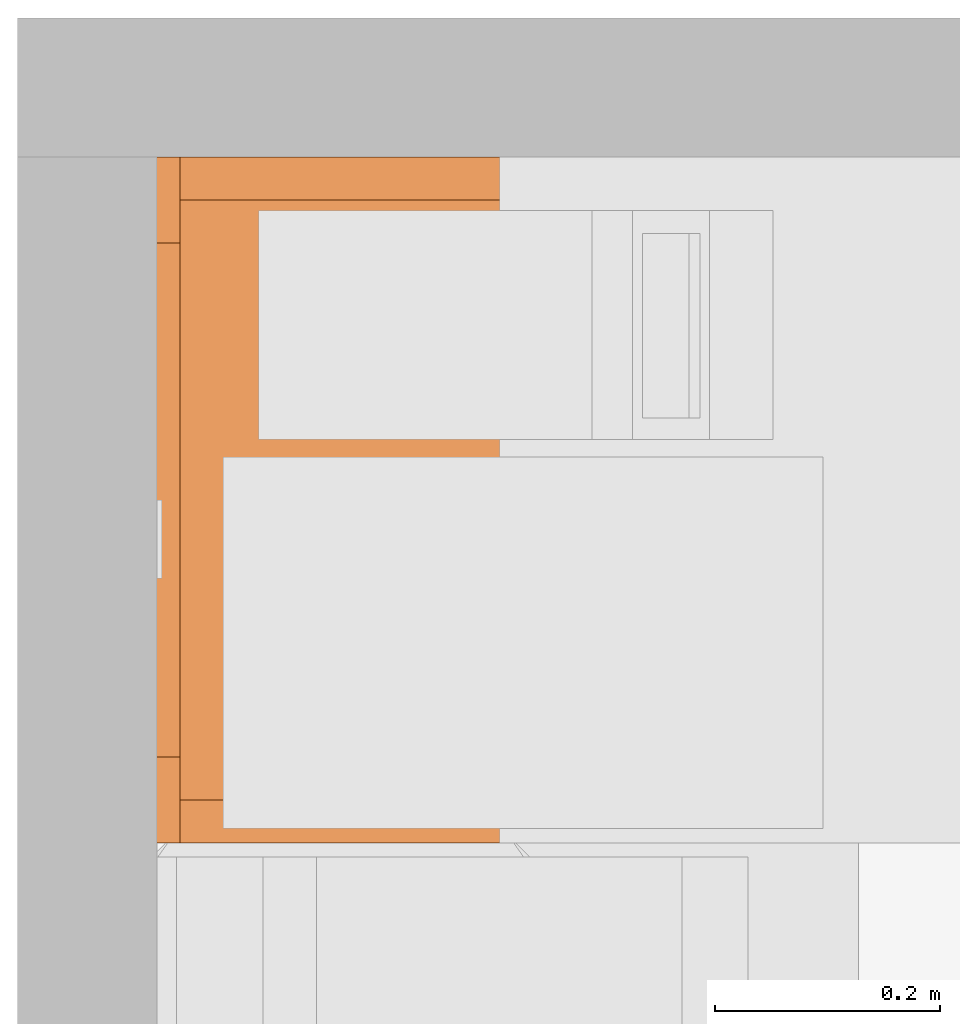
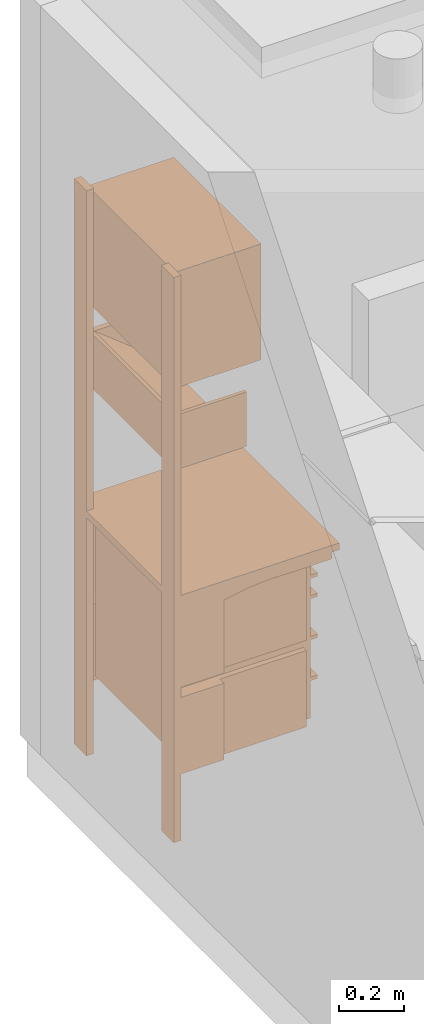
# One storey, part 8 of 11: 1 proxy.
"""IFC2X3 building model written with IfcOpenShell, lengths in feet."""

from ifc_helpers import new_model, entity, si_unit, converted_unit, derived_unit, direction, frame, origin, place, context, subcontext, project, spatial, faceted_brep, source, transform, mapped, type_object, type_shapes, element, save


model = new_model("IFC2X3")

# Units and contexts
model_context = context("Model", 3, precision=0.0001, world=origin(), true_north=direction((6.12303176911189e-17, 1.0)))
body_context = subcontext(model_context, "Body", "Model", "MODEL_VIEW")
ifc_project = project(units=[converted_unit("LENGTHUNIT", "FOOT", entity("IfcRatioMeasure", 0.3048), si_unit("LENGTHUNIT", "METRE"), dimensions=[1, 0, 0, 0, 0, 0, 0]), converted_unit("AREAUNIT", "SQUARE FOOT", entity("IfcRatioMeasure", 0.09290304), si_unit("AREAUNIT", "SQUARE_METRE"), dimensions=[2, 0, 0, 0, 0, 0, 0]), converted_unit("VOLUMEUNIT", "CUBIC FOOT", entity("IfcRatioMeasure", 0.028316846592), si_unit("VOLUMEUNIT", "CUBIC_METRE"), dimensions=[3, 0, 0, 0, 0, 0, 0]), converted_unit("PLANEANGLEUNIT", "DEGREE", entity("IfcRatioMeasure", 0.0174532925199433), si_unit("PLANEANGLEUNIT", "RADIAN"), dimensions=[0, 0, 0, 0, 0, 0, 0]), si_unit("MASSUNIT", "GRAM", prefix="KILO"), derived_unit("MASSDENSITYUNIT", [(si_unit("MASSUNIT", "GRAM", prefix="KILO"), 1), (si_unit("LENGTHUNIT", "METRE"), -3)]), si_unit("TIMEUNIT", "SECOND"), si_unit("FREQUENCYUNIT", "HERTZ"), si_unit("THERMODYNAMICTEMPERATUREUNIT", "DEGREE_CELSIUS"), derived_unit("THERMALTRANSMITTANCEUNIT", [(si_unit("MASSUNIT", "GRAM", prefix="KILO"), 1), (si_unit("THERMODYNAMICTEMPERATUREUNIT", "KELVIN"), -1), (si_unit("TIMEUNIT", "SECOND"), -3)]), derived_unit("VOLUMETRICFLOWRATEUNIT", [(si_unit("LENGTHUNIT", "METRE"), 3), (si_unit("TIMEUNIT", "SECOND"), -1)]), si_unit("ELECTRICCURRENTUNIT", "AMPERE"), si_unit("ELECTRICVOLTAGEUNIT", "VOLT"), si_unit("POWERUNIT", "WATT"), si_unit("FORCEUNIT", "NEWTON"), si_unit("ILLUMINANCEUNIT", "LUX"), si_unit("LUMINOUSFLUXUNIT", "LUMEN"), si_unit("LUMINOUSINTENSITYUNIT", "CANDELA"), derived_unit("USERDEFINED", [(si_unit("MASSUNIT", "GRAM", prefix="KILO"), -1), (si_unit("LENGTHUNIT", "METRE"), -2), (si_unit("TIMEUNIT", "SECOND"), 3), (si_unit("LUMINOUSFLUXUNIT", "LUMEN"), 1)]), derived_unit("LINEARVELOCITYUNIT", [(si_unit("LENGTHUNIT", "METRE"), 1), (si_unit("TIMEUNIT", "SECOND"), -1)]), si_unit("PRESSUREUNIT", "PASCAL"), derived_unit("USERDEFINED", [(si_unit("LENGTHUNIT", "METRE"), -2), (si_unit("MASSUNIT", "GRAM", prefix="KILO"), 1), (si_unit("TIMEUNIT", "SECOND"), -2)])], contexts=[model_context])

# Site, building, storey, space
site_placement = place(None, origin())
site = spatial("IfcSite", under=ifc_project, at=site_placement, Name="Default", CompositionType="ELEMENT")
building_placement = place(site_placement, origin())
building = spatial("IfcBuilding", under=site, at=building_placement, Name="EYE CLINIC:  OPTHALMOLOGY AND OPTOMETRY SERVICES (Ch. 233)", CompositionType="ELEMENT")
storey_placement = place(building_placement, origin())
storey = spatial("IfcBuildingStorey", under=building, at=storey_placement, Name="DATUM", CompositionType="ELEMENT", Elevation=0.0)
space_placement = place(storey_placement, origin())
space = spatial("IfcSpace", under=storey, at=space_placement, Name="(OPVF2)", CompositionType="ELEMENT", InteriorOrExteriorSpace="INTERNAL")

# Proxy
building_element_proxy_type = type_object("IfcBuildingElementProxyType", Name="E0204 - Worksurface, with Overhd Cab & Drwrs, Wall Mtd, 24 W", PredefinedType="NOTDEFINED")
shared_shape = source(origin(), body_context, "Body", "Brep", [
    faceted_brep([(0.125000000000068, 0.916666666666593, 5.12161490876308), (0.125000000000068, 0.916666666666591, 4.45494824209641), (0.125000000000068, 0.0833333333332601, 4.45494824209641), (0.125000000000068, 0.0833333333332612, 5.12161490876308), (1.87500000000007, 0.916666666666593, 5.12161490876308), (1.87500000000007, 0.0833333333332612, 5.12161490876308), (1.87500000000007, 0.0833333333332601, 4.45494824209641), (1.87500000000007, 0.916666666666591, 4.45494824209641), (1.8333333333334, 0.916666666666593, 5.12161490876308), (1.8333333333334, 0.124999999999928, 5.12161490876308), (0.187500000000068, 0.12499999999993, 5.12161490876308), (0.187500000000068, 0.916666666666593, 5.12161490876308), (0.187500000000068, 0.916666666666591, 4.49661490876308), (1.8333333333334, 0.916666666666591, 4.49661490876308)], [[[0, 1, 2, 3]], [[4, 5, 6, 7]], [[0, 3, 5, 4, 8, 9, 10, 11]], [[3, 2, 6, 5]], [[2, 1, 7, 6]], [[1, 0, 11, 12, 13, 8, 4, 7]], [[10, 12, 11]], [[13, 9, 8]], [[12, 10, 9, 13]]]),
    faceted_brep([(2.0, 1.91666666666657, 2.99921907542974), (2.0, 0.0, 2.99921907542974), (2.0, 0.0, 2.91588574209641), (2.0, 1.91666666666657, 2.9158857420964), (0.0, 1.91666666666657, 2.99921907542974), (0.0, 1.91666666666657, 2.9158857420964), (0.0, 0.0, 2.91588574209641), (0.0, 0.0, 2.99921907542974)], [[[0, 1, 2, 3]], [[4, 5, 6, 7]], [[1, 0, 4, 7]], [[2, 1, 7, 6]], [[3, 2, 6, 5]], [[0, 3, 5, 4]]]),
    faceted_brep([(0.0, 0.58333333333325, 1.74999999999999), (0.0, 0.583333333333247, 0.812499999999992), (0.0, 0.0833333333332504, 0.812499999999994), (0.0, 0.083333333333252, 1.74999999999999), (0.0833333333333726, 0.58333333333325, 1.74999999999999), (0.0833333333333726, 0.083333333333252, 1.74999999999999), (0.0833333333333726, 0.0833333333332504, 0.812499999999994), (0.0833333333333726, 0.583333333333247, 0.812499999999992)], [[[0, 1, 2, 3]], [[4, 5, 6, 7]], [[0, 3, 5, 4]], [[3, 2, 6, 5]], [[2, 1, 7, 6]], [[1, 0, 4, 7]]]),
    faceted_brep([(0.0, 1.83333333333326, 2.83255240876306), (0.0, 1.38311796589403, 2.83255240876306), (0.0, 1.11489062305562, 2.83825911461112), (0.0, 0.847418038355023, 2.81735719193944), (0.0, 0.583333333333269, 2.77005240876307), (0.0, 0.58333333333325, 1.87421907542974), (0.0, 0.0833333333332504, 1.87421907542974), (0.0, 0.0833333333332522, 2.9158857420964), (0.0, 1.83333333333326, 2.9158857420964), (0.0833333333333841, 0.0833333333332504, 1.87421907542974), (0.0833333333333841, 0.58333333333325, 1.87421907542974), (0.0833333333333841, 0.583333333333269, 2.77005240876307), (0.0833333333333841, 0.847418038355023, 2.81735719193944), (0.0833333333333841, 1.11489062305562, 2.83825911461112), (0.0833333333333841, 1.38311796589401, 2.83255240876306), (0.0833333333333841, 1.83333333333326, 2.83255240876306), (0.0833333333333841, 1.83333333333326, 2.9158857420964), (0.0833333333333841, 0.0833333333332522, 2.9158857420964)], [[[0, 1, 2, 3, 4, 5, 6, 7, 8]], [[9, 10, 11, 12, 13, 14, 15, 16, 17]], [[0, 8, 16, 15]], [[8, 7, 17, 16]], [[7, 6, 9, 17]], [[6, 5, 10, 9]], [[5, 4, 11, 10]], [[13, 2, 1, 14]], [[13, 12, 3, 2]], [[11, 4, 3, 12]], [[1, 0, 15, 14]]]),
    faceted_brep([(0.145833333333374, 1.74999999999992, 1.35416666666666), (0.145833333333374, 1.74999999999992, 1.31249999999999), (0.145833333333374, 1.66666666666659, 1.31249999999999), (0.145833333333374, 1.66666666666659, 1.35416666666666), (1.85416666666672, 1.74999999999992, 1.35416666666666), (1.85416666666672, 1.66666666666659, 1.35416666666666), (1.85416666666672, 1.66666666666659, 1.31249999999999), (1.85416666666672, 1.74999999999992, 1.31249999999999)], [[[0, 1, 2, 3]], [[4, 5, 6, 7]], [[0, 3, 5, 4]], [[3, 2, 6, 5]], [[2, 1, 7, 6]], [[1, 0, 4, 7]]]),
    faceted_brep([(0.145833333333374, 1.74999999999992, 1.85416666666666), (0.145833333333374, 1.74999999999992, 1.81249999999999), (0.145833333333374, 1.66666666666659, 1.81249999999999), (0.145833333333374, 1.66666666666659, 1.85416666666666), (1.85416666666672, 1.74999999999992, 1.85416666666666), (1.85416666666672, 1.66666666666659, 1.85416666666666), (1.85416666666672, 1.66666666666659, 1.81249999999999), (1.85416666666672, 1.74999999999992, 1.81249999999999)], [[[0, 1, 2, 3]], [[4, 5, 6, 7]], [[0, 3, 5, 4]], [[3, 2, 6, 5]], [[2, 1, 7, 6]], [[1, 0, 4, 7]]]),
    faceted_brep([(0.145833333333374, 1.74999999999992, 2.35416666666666), (0.145833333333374, 1.74999999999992, 2.31249999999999), (0.145833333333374, 1.66666666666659, 2.31249999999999), (0.145833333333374, 1.66666666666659, 2.35416666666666), (1.85416666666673, 1.74999999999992, 2.35416666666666), (1.85416666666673, 1.66666666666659, 2.35416666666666), (1.85416666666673, 1.66666666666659, 2.31249999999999), (1.85416666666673, 1.74999999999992, 2.31249999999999)], [[[0, 1, 2, 3]], [[4, 5, 6, 7]], [[0, 3, 5, 4]], [[3, 2, 6, 5]], [[2, 1, 7, 6]], [[1, 0, 4, 7]]]),
    faceted_brep([(0.145833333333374, 1.74999999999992, 2.60416666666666), (0.145833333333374, 1.74999999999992, 2.56249999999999), (0.145833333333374, 1.66666666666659, 2.56249999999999), (0.145833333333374, 1.66666666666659, 2.60416666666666), (1.85416666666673, 1.74999999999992, 2.60416666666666), (1.85416666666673, 1.66666666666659, 2.60416666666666), (1.85416666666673, 1.66666666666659, 2.56249999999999), (1.85416666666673, 1.74999999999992, 2.56249999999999)], [[[0, 1, 2, 3]], [[4, 5, 6, 7]], [[0, 3, 5, 4]], [[3, 2, 6, 5]], [[2, 1, 7, 6]], [[1, 0, 4, 7]]]),
    faceted_brep([(0.145833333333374, 1.74999999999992, 2.85416666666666), (0.145833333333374, 1.74999999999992, 2.81249999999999), (0.145833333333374, 1.66666666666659, 2.81249999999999), (0.145833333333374, 1.66666666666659, 2.85416666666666), (1.85416666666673, 1.74999999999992, 2.85416666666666), (1.85416666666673, 1.66666666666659, 2.85416666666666), (1.85416666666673, 1.66666666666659, 2.81249999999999), (1.85416666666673, 1.74999999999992, 2.81249999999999)], [[[0, 1, 2, 3]], [[4, 5, 6, 7]], [[0, 3, 5, 4]], [[3, 2, 6, 5]], [[2, 1, 7, 6]], [[1, 0, 4, 7]]]),
    faceted_brep([(0.145833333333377, 0.16666666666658, 2.85416666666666), (1.85416666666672, 0.166666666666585, 2.85416666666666), (1.85416666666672, 0.196309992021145, 2.85416666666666), (1.85416666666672, 1.66666666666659, 2.85416666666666), (0.145833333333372, 1.66666666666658, 2.85416666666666), (0.145833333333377, 0.166666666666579, 0.854166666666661), (0.145833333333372, 1.66666666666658, 0.854166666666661), (1.85416666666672, 1.66666666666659, 0.854166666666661), (1.85416666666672, 0.196309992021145, 0.854166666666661), (1.85416666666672, 0.166666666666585, 0.854166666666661)], [[[0, 1, 2, 3, 4]], [[5, 6, 7, 8, 9]], [[0, 4, 6, 5]], [[4, 3, 7, 6]], [[3, 2, 8, 7]], [[2, 1, 9, 8]], [[1, 0, 5, 9]]]),
    faceted_brep([(0.0833333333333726, 1.58333333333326, 1.87421907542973), (0.0833333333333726, 0.0833333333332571, 1.87421907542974), (0.0833333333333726, 0.0833333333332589, 2.87421907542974), (0.0833333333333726, 1.58333333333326, 2.87421907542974), (0.145833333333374, 1.58333333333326, 1.87421907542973), (0.145833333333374, 1.58333333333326, 2.87421907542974), (0.145833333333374, 0.0833333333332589, 2.87421907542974), (0.145833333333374, 0.0833333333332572, 1.87421907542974)], [[[0, 1, 2, 3]], [[4, 5, 6, 7]], [[0, 3, 5, 4]], [[3, 2, 6, 5]], [[2, 1, 7, 6]], [[1, 0, 4, 7]]]),
    faceted_brep([(0.0833333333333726, 1.58333333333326, 0.812499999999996), (0.0833333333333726, 0.0833333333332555, 0.812500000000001), (0.0833333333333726, 0.0833333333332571, 1.74999999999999), (0.0833333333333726, 1.58333333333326, 1.74999999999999), (0.145833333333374, 1.58333333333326, 0.812499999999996), (0.145833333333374, 1.58333333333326, 1.74999999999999), (0.145833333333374, 0.0833333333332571, 1.74999999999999), (0.145833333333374, 0.0833333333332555, 0.812500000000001)], [[[0, 1, 2, 3]], [[4, 5, 6, 7]], [[0, 3, 5, 4]], [[3, 2, 6, 5]], [[2, 1, 7, 6]], [[1, 0, 4, 7]]]),
    faceted_brep([(1.85416666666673, 1.58333333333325, 1.87421907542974), (1.85416666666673, 0.0833333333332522, 1.87421907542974), (1.85416666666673, 0.083333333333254, 2.87421907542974), (1.85416666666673, 1.58333333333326, 2.87421907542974), (1.91666666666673, 1.58333333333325, 1.87421907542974), (1.91666666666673, 1.58333333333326, 2.87421907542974), (1.91666666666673, 0.083333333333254, 2.87421907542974), (1.91666666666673, 0.0833333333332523, 1.87421907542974)], [[[0, 1, 2, 3]], [[4, 5, 6, 7]], [[0, 3, 5, 4]], [[3, 2, 6, 5]], [[2, 1, 7, 6]], [[1, 0, 4, 7]]]),
    faceted_brep([(1.85416666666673, 1.58333333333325, 0.812499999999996), (1.85416666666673, 0.0833333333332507, 0.812500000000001), (1.85416666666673, 0.0833333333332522, 1.74999999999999), (1.85416666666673, 1.58333333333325, 1.74999999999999), (1.91666666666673, 1.58333333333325, 0.812499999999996), (1.91666666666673, 1.58333333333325, 1.74999999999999), (1.91666666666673, 0.0833333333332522, 1.74999999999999), (1.91666666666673, 0.0833333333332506, 0.812500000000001)], [[[0, 1, 2, 3]], [[4, 5, 6, 7]], [[0, 3, 5, 4]], [[3, 2, 6, 5]], [[2, 1, 7, 6]], [[1, 0, 4, 7]]]),
    faceted_brep([(1.91666666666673, 0.583333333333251, 1.74999999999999), (1.91666666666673, 0.583333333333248, 0.812499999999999), (1.91666666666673, 0.0833333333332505, 0.812500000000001), (1.91666666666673, 0.0833333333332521, 1.74999999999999), (2.0, 0.583333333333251, 1.74999999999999), (2.0, 0.0833333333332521, 1.74999999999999), (2.0, 0.0833333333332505, 0.812500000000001), (2.0, 0.583333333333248, 0.812499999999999)], [[[0, 1, 2, 3]], [[4, 5, 6, 7]], [[0, 3, 5, 4]], [[3, 2, 6, 5]], [[2, 1, 7, 6]], [[1, 0, 4, 7]]]),
    faceted_brep([(1.91666666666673, 1.83333333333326, 2.83255240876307), (1.91666666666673, 1.38311796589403, 2.83255240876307), (1.91666666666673, 1.11489062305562, 2.83825911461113), (1.91666666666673, 0.847418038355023, 2.81735719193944), (1.91666666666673, 0.583333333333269, 2.77005240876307), (1.91666666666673, 0.58333333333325, 1.87421907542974), (1.91666666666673, 0.0833333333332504, 1.87421907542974), (1.91666666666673, 0.0833333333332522, 2.91588574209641), (1.91666666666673, 1.83333333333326, 2.9158857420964), (2.0, 0.0833333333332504, 1.87421907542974), (2.0, 0.58333333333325, 1.87421907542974), (2.0, 0.583333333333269, 2.77005240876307), (2.0, 0.847418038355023, 2.81735719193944), (2.0, 1.11489062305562, 2.83825911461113), (2.0, 1.38311796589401, 2.83255240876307), (2.0, 1.83333333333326, 2.83255240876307), (2.0, 1.83333333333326, 2.9158857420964), (2.0, 0.0833333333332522, 2.91588574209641)], [[[0, 1, 2, 3, 4, 5, 6, 7, 8]], [[9, 10, 11, 12, 13, 14, 15, 16, 17]], [[0, 8, 16, 15]], [[8, 7, 17, 16]], [[7, 6, 9, 17]], [[6, 5, 10, 9]], [[5, 4, 11, 10]], [[13, 2, 1, 14]], [[13, 12, 3, 2]], [[11, 4, 3, 12]], [[1, 0, 15, 14]]]),
    faceted_brep([(1.05235095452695, 1.08333333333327, 5.49803466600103), (1.06240016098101, 1.08333333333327, 5.50219718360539), (1.07102961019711, 1.08333333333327, 5.50881879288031), (1.07765121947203, 1.08333333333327, 5.51744824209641), (1.08181373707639, 1.08333333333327, 5.52749744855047), (1.08323349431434, 1.08333333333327, 5.53828157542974), (1.08181373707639, 1.08333333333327, 5.54906570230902), (1.07765121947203, 1.08333333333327, 5.55911490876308), (1.07102961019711, 1.08333333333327, 5.56774435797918), (1.06240016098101, 1.08333333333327, 5.5743659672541), (1.05235095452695, 1.08333333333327, 5.57852848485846), (1.04156682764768, 1.08333333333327, 5.57994824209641), (1.0307827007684, 1.08333333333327, 5.57852848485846), (1.02073349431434, 1.08333333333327, 5.5743659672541), (1.01210404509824, 1.08333333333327, 5.56774435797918), (1.00548243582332, 1.08333333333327, 5.55911490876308), (1.00131991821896, 1.08333333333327, 5.54906570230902), (0.999900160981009, 1.08333333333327, 5.53828157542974), (1.00131991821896, 1.08333333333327, 5.52749744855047), (1.00548243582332, 1.08333333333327, 5.51744824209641), (1.01210404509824, 1.08333333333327, 5.50881879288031), (1.02073349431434, 1.08333333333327, 5.50219718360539), (1.0307827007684, 1.08333333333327, 5.49803466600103), (1.04156682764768, 1.08333333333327, 5.49661490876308), (1.05235095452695, 1.11693738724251, 5.57852848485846), (1.06240016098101, 1.11693738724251, 5.5743659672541), (1.07102961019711, 1.11693738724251, 5.56774435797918), (1.07765121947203, 1.11693738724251, 5.55911490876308), (1.08181373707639, 1.11693738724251, 5.54906570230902), (1.08323349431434, 1.11693738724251, 5.53828157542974), (1.08181373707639, 1.11693738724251, 5.52749744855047), (1.07765121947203, 1.11693738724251, 5.51744824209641), (1.07102961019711, 1.11693738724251, 5.50881879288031), (1.06240016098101, 1.11693738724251, 5.50219718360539), (1.05235095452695, 1.11693738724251, 5.49803466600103), (1.04156682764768, 1.11693738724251, 5.49661490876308), (1.0307827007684, 1.11693738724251, 5.49803466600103), (1.02073349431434, 1.11693738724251, 5.50219718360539), (1.01210404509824, 1.11693738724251, 5.50881879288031), (1.00548243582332, 1.11693738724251, 5.51744824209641), (1.00131991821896, 1.11693738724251, 5.52749744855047), (0.999900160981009, 1.11693738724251, 5.53828157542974), (1.00131991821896, 1.11693738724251, 5.54906570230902), (1.00548243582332, 1.11693738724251, 5.55911490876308), (1.01210404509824, 1.11693738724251, 5.56774435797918), (1.02073349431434, 1.11693738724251, 5.5743659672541), (1.0307827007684, 1.11693738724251, 5.57852848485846), (1.04156682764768, 1.11693738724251, 5.57994824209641)], [[[0, 1, 2, 3, 4, 5, 6, 7, 8, 9, 10, 11, 12, 13, 14, 15, 16, 17, 18, 19, 20, 21, 22, 23]], [[24, 25, 26, 27, 28, 29, 30, 31, 32, 33, 34, 35, 36, 37, 38, 39, 40, 41, 42, 43, 44, 45, 46, 47]], [[40, 18, 17, 41]], [[39, 19, 18, 40]], [[21, 20, 38, 37]], [[39, 38, 20, 19]], [[22, 21, 37, 36]], [[23, 22, 36, 35]], [[34, 0, 23, 35]], [[33, 1, 0, 34]], [[3, 2, 32, 31]], [[33, 32, 2, 1]], [[4, 3, 31, 30]], [[5, 4, 30, 29]], [[28, 6, 5, 29]], [[27, 7, 6, 28]], [[9, 8, 26, 25]], [[27, 26, 8, 7]], [[10, 9, 25, 24]], [[11, 10, 24, 47]], [[46, 12, 11, 47]], [[45, 13, 12, 46]], [[15, 14, 44, 43]], [[45, 44, 14, 13]], [[16, 15, 43, 42]], [[17, 16, 42, 41]]]),
    faceted_brep([(2.0, 0.0, 6.91666666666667), (2.0, 0.0833333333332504, 6.91666666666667), (1.75000000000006, 0.0833333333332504, 6.91666666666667), (1.75000000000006, 0.0, 6.91666666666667), (2.0, 0.0, 0.0), (1.75000000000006, 0.0, 0.0), (1.75000000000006, 0.0833333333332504, 0.0), (2.0, 0.0833333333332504, 0.0)], [[[0, 1, 2, 3]], [[4, 5, 6, 7]], [[1, 0, 4, 7]], [[2, 1, 7, 6]], [[3, 2, 6, 5]], [[0, 3, 5, 4]]]),
    faceted_brep([(0.250000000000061, 0.0, 6.91666666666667), (0.250000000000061, 0.0833333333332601, 6.91666666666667), (0.0, 0.0833333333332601, 6.91666666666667), (0.0, 0.0, 6.91666666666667), (0.250000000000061, 0.0, 0.0), (0.0, 0.0, 0.0), (0.0, 0.0833333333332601, 0.0), (0.250000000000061, 0.0833333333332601, 0.0)], [[[0, 1, 2, 3]], [[4, 5, 6, 7]], [[1, 0, 4, 7]], [[2, 1, 7, 6]], [[3, 2, 6, 5]], [[0, 3, 5, 4]]]),
    faceted_brep([(1.87500000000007, 0.0833333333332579, 6.87499999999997), (1.87500000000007, 1.08333333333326, 6.87499999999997), (0.12500000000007, 1.08333333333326, 6.87499999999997), (0.125000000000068, 0.083333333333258, 6.87499999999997), (1.87500000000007, 0.0833333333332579, 5.45494824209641), (0.125000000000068, 0.083333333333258, 5.45494824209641), (0.12500000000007, 1.08333333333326, 5.45494824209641), (1.87500000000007, 1.08333333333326, 5.45494824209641)], [[[0, 1, 2, 3]], [[4, 5, 6, 7]], [[1, 0, 4, 7]], [[2, 1, 7, 6]], [[3, 2, 6, 5]], [[0, 3, 5, 4]]]),
])
type_shapes(building_element_proxy_type, [shared_shape])
proxy_placement = place(space_placement, frame((189.624144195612, 29.0107506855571, 0.0), z_axis=(0.0, 0.0, 1.0), x_axis=(0.0, -1.0, 0.0)))
element("IfcBuildingElementProxy", 1, at=proxy_placement, inside=space, type_object=building_element_proxy_type, Name="E0204 - Worksurface, with Overhd Cab & Drwrs, Wall Mtd, 24 W:E0204 - Worksurface, with Overhd Cab & Drwrs, Wall Mtd, 24 W", ObjectType="E0204 - Worksurface, with Overhd Cab & Drwrs, Wall Mtd, 24 W", context=body_context, shape_type="MappedRepresentation", body=[
    mapped(shared_shape, transform((0.0, 0.0, 0.0), scale=1.0)),
])

save(model, "model.ifc")
